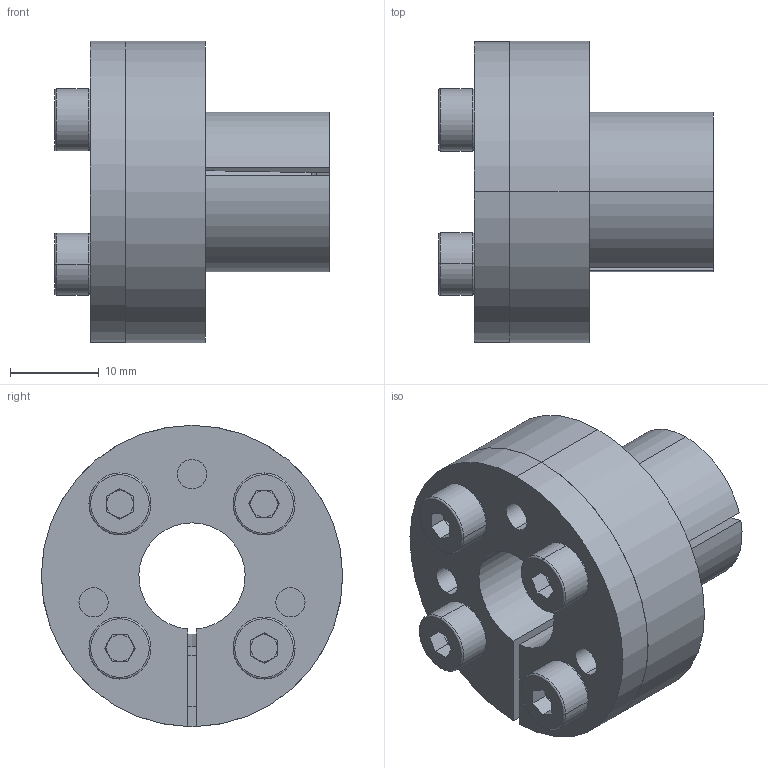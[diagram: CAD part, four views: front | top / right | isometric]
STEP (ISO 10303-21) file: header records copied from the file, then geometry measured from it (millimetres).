
FILE_DESCRIPTION (( 'STEP AP203' ), '1' );
FILE_NAME ('T-12-18.STEP', '2017-10-13T08:13:48', ( 'MYCOM' ), ( '' ), 'SwSTEP 2.0', 'SolidWorks 2015', '' );
FILE_SCHEMA (( 'CONFIG_CONTROL_DESIGN' ));
Length unit declared in the file: millimetre
Products named in the file (1): T-12-18
Bounding box: 31 x 34 x 34 mm (x, y, z)
Surface area: 10105.5 mm2 (no closed solid volume)
Topology: 0 solids, 11 shells, 135 faces, 359 edges, 228 vertices
Faces by surface type: plane 59, cylinder 47, torus 16, cone 13
Entity records: 4299 total; most frequent: DIRECTION 809, CARTESIAN_POINT 741, ORIENTED_EDGE 633, EDGE_CURVE 359, AXIS2_PLACEMENT_3D 318, VERTEX_POINT 228, CIRCLE 182, VECTOR 173
